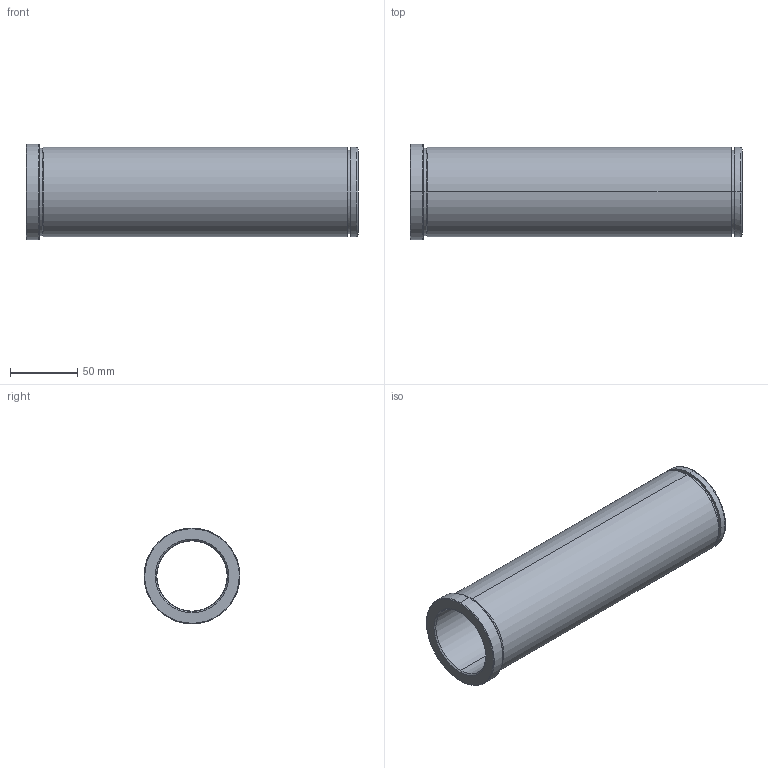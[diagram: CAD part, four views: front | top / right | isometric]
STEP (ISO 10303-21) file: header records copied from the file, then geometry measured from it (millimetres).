
FILE_DESCRIPTION(('CATIA V5 STEP Exchange'),'2;1');
FILE_NAME('C:\Users\Utente\Desktop\IO LAVORO\3D X SITO CF\X SITO\PLASTICA\553\553-52X246.stp','2021-06-08T18:04:37+00:00',('none'),('none'),'CATIA Version 5 Release 20 GA (IN-10)','CATIA V5 STEP AP203','none');
FILE_SCHEMA(('CONFIG_CONTROL_DESIGN'));
Length unit declared in the file: millimetre
Products named in the file (1): 553-52X246
Bounding box: 246 x 71 x 71 mm (x, y, z)
Volume: 317482.4 mm3; surface area: 95613.6 mm2
Topology: 1 solids, 1 shells, 32 faces, 102 edges, 76 vertices
Faces by surface type: cylinder 14, cone 8, plane 6, torus 4
Entity records: 1340 total; most frequent: CARTESIAN_POINT 395, ORIENTED_EDGE 204, DIRECTION 152, EDGE_CURVE 102, AXIS2_PLACEMENT_3D 99, VERTEX_POINT 76, CIRCLE 66, EDGE_LOOP 38
